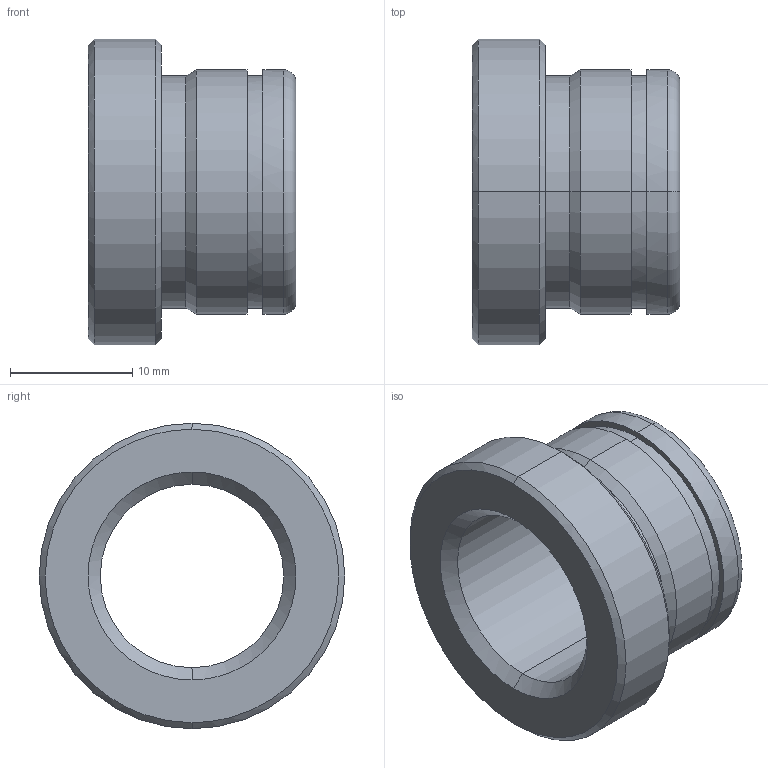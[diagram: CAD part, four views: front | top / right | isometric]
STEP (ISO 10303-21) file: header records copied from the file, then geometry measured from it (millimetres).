
FILE_DESCRIPTION(('CATIA V5 STEP Exchange'),'2;1');
FILE_NAME('C:\Users\Utente\Desktop\IO LAVORO\3D X SITO CF\X SITO\PLASTICA\553\553-15X17.stp','2021-05-21T18:40:39+00:00',('none'),('none'),'CATIA Version 5 Release 20 GA (IN-10)','CATIA V5 STEP AP203','none');
FILE_SCHEMA(('CONFIG_CONTROL_DESIGN'));
Length unit declared in the file: millimetre
Products named in the file (1): 553-15X17
Bounding box: 17 x 25 x 25 mm (x, y, z)
Volume: 3201.4 mm3; surface area: 2550.5 mm2
Topology: 1 solids, 1 shells, 28 faces, 88 edges, 64 vertices
Faces by surface type: cylinder 12, cone 8, plane 4, torus 4
Entity records: 1176 total; most frequent: CARTESIAN_POINT 359, ORIENTED_EDGE 176, DIRECTION 130, EDGE_CURVE 88, AXIS2_PLACEMENT_3D 83, VERTEX_POINT 64, CIRCLE 54, EDGE_LOOP 32
